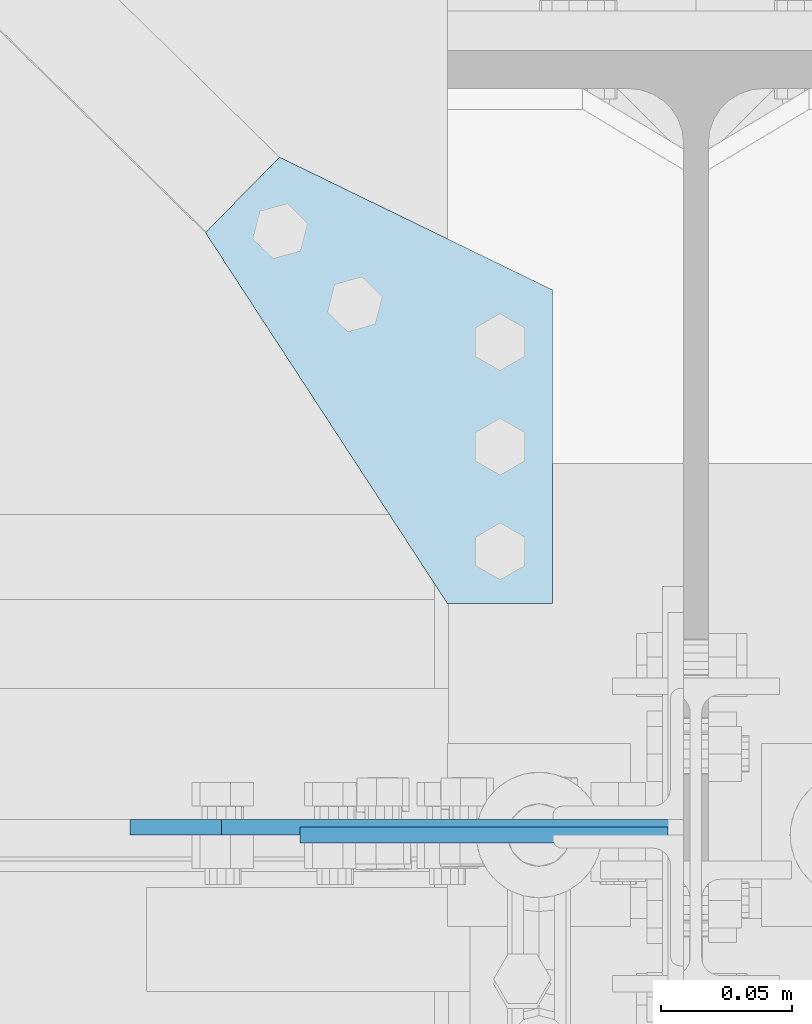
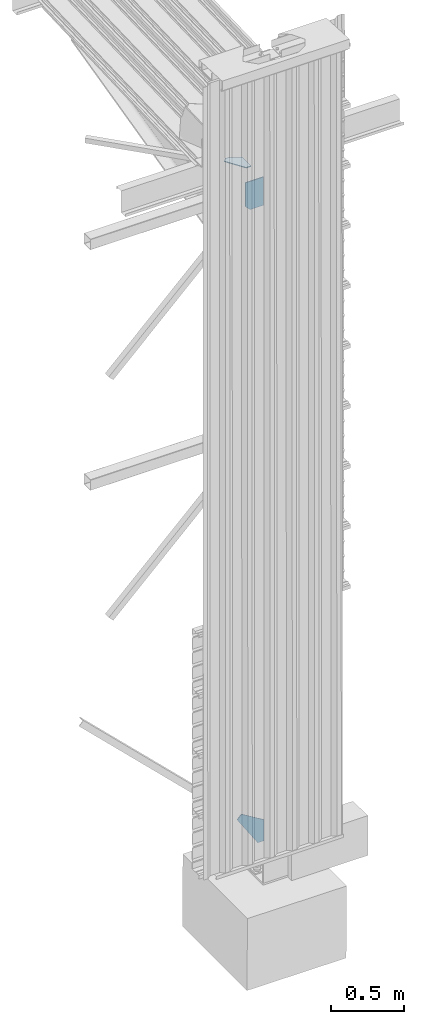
# One storey, part 4 of 18: 3 plates, 3 elements without a shape of their own.
"""IFC2X3 building model written with IfcOpenShell, lengths in millimetres."""

from ifc_helpers import new_model, si_unit, frame, origin_with_axes, place, context, subcontext, project, spatial, polyline, outline, extrude, clip, halfspace, material, type_object, element, aggregate, save


model = new_model("IFC2X3")

# Units and contexts
model_context = context("Model", 3, precision=1e-05, world=origin_with_axes())
body_context = subcontext(model_context, "Body", "Model", "MODEL_VIEW")
ifc_project = project(units=[si_unit("LENGTHUNIT", "METRE", prefix="MILLI"), si_unit("AREAUNIT", "SQUARE_METRE"), si_unit("VOLUMEUNIT", "CUBIC_METRE"), si_unit("MASSUNIT", "GRAM", prefix="KILO"), si_unit("TIMEUNIT", "SECOND"), si_unit("PLANEANGLEUNIT", "RADIAN"), si_unit("SOLIDANGLEUNIT", "STERADIAN"), si_unit("THERMODYNAMICTEMPERATUREUNIT", "DEGREE_CELSIUS"), si_unit("LUMINOUSINTENSITYUNIT", "LUMEN")], contexts=[model_context])

# Site, building, storey
site_placement = place(None, origin_with_axes())
site = spatial("IfcSite", under=ifc_project, at=site_placement, Name="Undefined", CompositionType="ELEMENT")
building_placement = place(site_placement, origin_with_axes())
building = spatial("IfcBuilding", under=site, at=building_placement, Name="Undefined", CompositionType="ELEMENT")
storey_placement = place(building_placement, origin_with_axes())
storey = spatial("IfcBuildingStorey", under=building, at=storey_placement, Name="Undefined", CompositionType="ELEMENT", Elevation=0.0)

# Assembly, plate
assembly_1_placement = place(storey_placement, frame((-8.78828234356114e-06, -74.9991075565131, 5232.42353239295), z_axis=(4.00000040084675e-05, -3.89999954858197e-06, 0.999999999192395), x_axis=(-0.9999999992, -8.13579943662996e-14, 4.00000036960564e-05)))
assembly_1 = element("IfcElementAssembly", 1, at=assembly_1_placement, inside=storey, Name="GOUSSET", PredefinedType="NOTDEFINED")
ifc_material = material(Name="STEEL/S235JR")
plate_type_1 = type_object("IfcPlateType", Name="PL6*141", PredefinedType="NOTDEFINED")
plate_1_placement = place(storey_placement, frame((-8.78828234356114e-06, -74.9991075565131, 5232.42353239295), z_axis=(1.5591866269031e-10, 0.999999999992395, 3.90000015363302e-06), x_axis=(-0.9999999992, -8.13579943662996e-14, 4.00000036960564e-05)))
plate_1 = element("IfcPlate", 2, at=plate_1_placement, type_object=plate_type_1, material=ifc_material, Name="GOUSSET", ObjectType="PL6*141", context=body_context, shape_type="Clipping", body=[
    clip(extrude(outline(polyline([(0.0, 0.0), (116.505332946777, 0.0), (151.42008972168, 35.7904510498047), (151.428146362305, 236.56982421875), (0.00948802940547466, 236.575881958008), (0.0, 0.0)])), frame((-7.50107850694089e-11, 5.61158286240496e-10, -2.99999999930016), z_axis=(0.0, 0.0, 1.0), x_axis=(1.0, 0.0, 0.0)), (0.0, 0.0, 1.0), 6.0), halfspace(frame((10.6811185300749, -472.060427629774, -0.00273261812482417), z_axis=(-0.9999999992, 4.00000035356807e-05, 1.56000037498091e-10), x_axis=(4.00000035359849e-05, 0.999999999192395, 3.90000059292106e-06)), False)),
])
aggregate(assembly_1, [plate_1])

assembly_2_placement = place(storey_placement, frame((-54.8890605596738, 13.4389669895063, 5516.99941189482), z_axis=(-1.0, 0.0, 0.0), x_axis=(0.0, 1.0, 0.0)))
assembly_2 = element("IfcElementAssembly", 3, at=assembly_2_placement, inside=storey, Name="GOUSSET", PredefinedType="NOTDEFINED")
plate_type_2 = type_object("IfcPlateType", Name="PL6*133", PredefinedType="NOTDEFINED")
plate_2_placement = place(storey_placement, frame((-54.8890605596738, 13.4389669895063, 5516.99941189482), z_axis=(0.0, 0.0, 1.0), x_axis=(0.0, 1.0, 0.0)))
plate_2 = element("IfcPlate", 4, at=plate_2_placement, type_object=plate_type_2, material=ifc_material, Name="GOUSSET PAV", ObjectType="PL6*133", context=body_context, shape_type="SweptSolid", body=[
    extrude(outline(polyline([(0.0, 0.0), (119.999900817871, 0.0), (170.715545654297, 104.338661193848), (141.841461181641, 132.653610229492), (0.0, 40.1109390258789), (0.0, 0.0)])), frame((-7.50107850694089e-11, 5.61158286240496e-10, -2.99999999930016), z_axis=(0.0, 0.0, 1.0), x_axis=(1.0, 0.0, 0.0)), (0.0, 0.0, 1.0), 6.0),
])
aggregate(assembly_2, [plate_2])

assembly_3_placement = place(storey_placement, frame((-181.392330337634, -72.0042149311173, 227.864280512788), z_axis=(-0.521141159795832, 2.71000023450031e-05, -0.853470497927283), x_axis=(0.853470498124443, 1.65000017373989e-05, -0.521141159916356)))
assembly_3 = element("IfcElementAssembly", 5, at=assembly_3_placement, inside=storey, Name="GOUSSET", PredefinedType="NOTDEFINED")
plate_type_3 = type_object("IfcPlateType", Name="PL6*211", PredefinedType="NOTDEFINED")
plate_3_placement = place(storey_placement, frame((-181.392330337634, -72.0042149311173, 227.864280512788), z_axis=(0.0, 0.999999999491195, 3.190000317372e-05), x_axis=(0.853470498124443, 1.65000017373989e-05, -0.521141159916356)))
plate_3 = element("IfcPlate", 6, at=plate_3_placement, type_object=plate_type_3, material=ifc_material, Name="GOUSSET", ObjectType="PL6*211", context=body_context, shape_type="SweptSolid", body=[
    extrude(outline(polyline([(0.0, 0.0), (205.856353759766, -6.67910171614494e-13), (297.056030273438, 149.357345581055), (255.23600769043, 174.89323425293), (-11.1448860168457, 48.7420883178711), (0.0, 0.0)])), frame((-7.50107850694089e-11, 5.61158286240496e-10, -2.99999999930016), z_axis=(0.0, 0.0, 1.0), x_axis=(1.0, 0.0, 0.0)), (0.0, 0.0, 1.0), 6.0),
])
aggregate(assembly_3, [plate_3])

save(model, "model.ifc")
